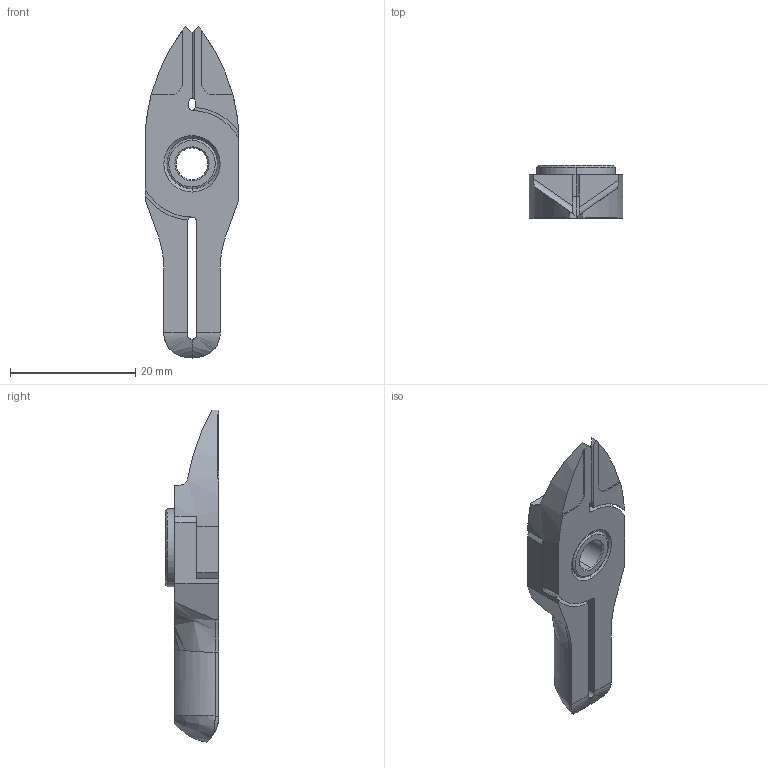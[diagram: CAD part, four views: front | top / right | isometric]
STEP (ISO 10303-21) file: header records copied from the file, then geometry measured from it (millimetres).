
FILE_DESCRIPTION (( 'STEP AP214' ), '1' );
FILE_NAME ('NY05RBJ.STEP', '2019-11-28T05:24:15', ( '微软用户' ), ( '微软中国' ), 'SwSTEP 2.0', 'SolidWorks 2016', '' );
FILE_SCHEMA (( 'AUTOMOTIVE_DESIGN' ));
Length unit declared in the file: millimetre
Products named in the file (4): BR2; BR1; BS; NY05RBJ
Assembly tree (3 placements, depth 2):
  NY05RBJ
    BS
    BR1
    BR2
Bounding box: 15 x 8.5 x 53 mm (x, y, z)
Volume: 2921.6 mm3; surface area: 3325.7 mm2
Topology: 3 solids, 3 shells, 135 faces, 351 edges, 223 vertices
Faces by surface type: plane 44, cylinder 37, bspline 29, cone 21, torus 4
Entity records: 4815 total; most frequent: CARTESIAN_POINT 1580, ORIENTED_EDGE 694, DIRECTION 599, EDGE_CURVE 347, VERTEX_POINT 223, AXIS2_PLACEMENT_3D 221, VECTOR 157, LINE 157
